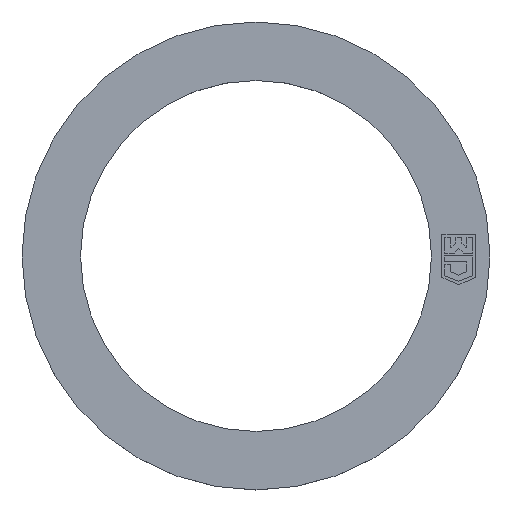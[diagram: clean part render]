
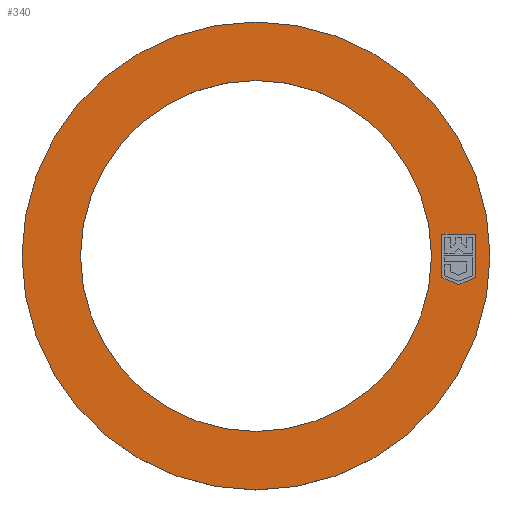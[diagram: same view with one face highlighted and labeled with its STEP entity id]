
A CAD part, top view. The second image highlights one B-rep face of the part: STEP entity #340.
In plain terms, the highlighted planar face has unit normal (0, 0, 1).
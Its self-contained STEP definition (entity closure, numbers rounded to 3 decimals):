
#219 = EDGE_CURVE ( 'NONE', #965, #289, #678, .T. ) ;
#260 = EDGE_LOOP ( 'NONE', ( #264, #267 ) ) ;
#264 = ORIENTED_EDGE ( 'NONE', *, *, #332, .F. ) ;
#265 = ORIENTED_EDGE ( 'NONE', *, *, #325, .T. ) ;
#266 = EDGE_LOOP ( 'NONE', ( #288, #301, #330, #324, #964 ) ) ;
#267 = ORIENTED_EDGE ( 'NONE', *, *, #268, .F. ) ;
#268 = EDGE_CURVE ( 'NONE', #269, #270, #698, .T. ) ;
#269 = VERTEX_POINT ( 'NONE', #693 ) ;
#270 = VERTEX_POINT ( 'NONE', #692 ) ;
#284 = EDGE_CURVE ( 'NONE', #302, #321, #660, .T. ) ;
#285 = VERTEX_POINT ( 'NONE', #651 ) ;
#287 = EDGE_LOOP ( 'NONE', ( #337, #265 ) ) ;
#288 = ORIENTED_EDGE ( 'NONE', *, *, #329, .T. ) ;
#289 = VERTEX_POINT ( 'NONE', #650 ) ;
#301 = ORIENTED_EDGE ( 'NONE', *, *, #322, .T. ) ;
#302 = VERTEX_POINT ( 'NONE', #600 ) ;
#321 = VERTEX_POINT ( 'NONE', #644 ) ;
#322 = EDGE_CURVE ( 'NONE', #285, #302, #642, .T. ) ;
#324 = ORIENTED_EDGE ( 'NONE', *, *, #970, .T. ) ;
#325 = EDGE_CURVE ( 'NONE', #339, #338, #761, .T. ) ;
#327 = EDGE_CURVE ( 'NONE', #338, #339, #767, .T. ) ;
#329 = EDGE_CURVE ( 'NONE', #289, #285, #748, .T. ) ;
#330 = ORIENTED_EDGE ( 'NONE', *, *, #284, .T. ) ;
#332 = EDGE_CURVE ( 'NONE', #270, #269, #779, .T. ) ;
#337 = ORIENTED_EDGE ( 'NONE', *, *, #327, .T. ) ;
#338 = VERTEX_POINT ( 'NONE', #774 ) ;
#339 = VERTEX_POINT ( 'NONE', #773 ) ;
#340 = ADVANCED_FACE ( 'NONE', ( #772, #771, #770 ), #1087, .T. ) ;
#600 = CARTESIAN_POINT ( 'NONE',  ( 7.15, -0.829, 0.8 ) ) ;
#639 = DIRECTION ( 'NONE',  ( -0.924, 0.383, 0. ) ) ;
#640 = VECTOR ( 'NONE', #639, 1000. ) ;
#641 = CARTESIAN_POINT ( 'NONE',  ( 7.8, -1.098, 0.8 ) ) ;
#642 = LINE ( 'NONE', #641, #640 ) ;
#644 = CARTESIAN_POINT ( 'NONE',  ( 7.15, 0.828, 0.8 ) ) ;
#650 = CARTESIAN_POINT ( 'NONE',  ( 8.45, -0.829, 0.8 ) ) ;
#651 = CARTESIAN_POINT ( 'NONE',  ( 7.8, -1.098, 0.8 ) ) ;
#652 = DIRECTION ( 'NONE',  ( 0., 1., 0. ) ) ;
#653 = VECTOR ( 'NONE', #652, 1000. ) ;
#654 = CARTESIAN_POINT ( 'NONE',  ( 7.15, -0.829, 0.8 ) ) ;
#660 = LINE ( 'NONE', #654, #653 ) ;
#675 = DIRECTION ( 'NONE',  ( 0., -1., 0. ) ) ;
#676 = VECTOR ( 'NONE', #675, 1000. ) ;
#677 = CARTESIAN_POINT ( 'NONE',  ( 8.45, 0.828, 0.8 ) ) ;
#678 = LINE ( 'NONE', #677, #676 ) ;
#692 = CARTESIAN_POINT ( 'NONE',  ( -6.75, 0., 0.8 ) ) ;
#693 = CARTESIAN_POINT ( 'NONE',  ( 6.75, 0., 0.8 ) ) ;
#694 = DIRECTION ( 'NONE',  ( 1., 0., 0. ) ) ;
#695 = DIRECTION ( 'NONE',  ( 0., 0., 1. ) ) ;
#696 = CARTESIAN_POINT ( 'NONE',  ( 0., 0., 0.8 ) ) ;
#697 = AXIS2_PLACEMENT_3D ( 'NONE', #696, #695, #694 ) ;
#698 = CIRCLE ( 'NONE', #697, 6.75 ) ;
#745 = DIRECTION ( 'NONE',  ( -0.924, -0.383, 0. ) ) ;
#746 = VECTOR ( 'NONE', #745, 1000. ) ;
#747 = CARTESIAN_POINT ( 'NONE',  ( 7.8, -1.098, 0.8 ) ) ;
#748 = LINE ( 'NONE', #747, #746 ) ;
#752 = CARTESIAN_POINT ( 'NONE',  ( 0., 0., 0.8 ) ) ;
#753 = DIRECTION ( 'NONE',  ( 1., 0., 0. ) ) ;
#754 = DIRECTION ( 'NONE',  ( 0., 0., 1. ) ) ;
#757 = DIRECTION ( 'NONE',  ( 1., 0., 0. ) ) ;
#759 = CARTESIAN_POINT ( 'NONE',  ( 0., 0., 0.8 ) ) ;
#760 = DIRECTION ( 'NONE',  ( 0., 0., 1. ) ) ;
#761 = CIRCLE ( 'NONE', #769, 9. ) ;
#764 = AXIS2_PLACEMENT_3D ( 'NONE', #759, #754, #753 ) ;
#767 = CIRCLE ( 'NONE', #764, 9. ) ;
#769 = AXIS2_PLACEMENT_3D ( 'NONE', #752, #760, #757 ) ;
#770 = FACE_BOUND ( 'NONE', #266, .T. ) ;
#771 = FACE_OUTER_BOUND ( 'NONE', #287, .T. ) ;
#772 = FACE_BOUND ( 'NONE', #260, .T. ) ;
#773 = CARTESIAN_POINT ( 'NONE',  ( 9., 0., 0.8 ) ) ;
#774 = CARTESIAN_POINT ( 'NONE',  ( -9., 0., 0.8 ) ) ;
#779 = CIRCLE ( 'NONE', #780, 6.75 ) ;
#780 = AXIS2_PLACEMENT_3D ( 'NONE', #783, #782, #781 ) ;
#781 = DIRECTION ( 'NONE',  ( 1., 0., 0. ) ) ;
#782 = DIRECTION ( 'NONE',  ( 0., 0., 1. ) ) ;
#783 = CARTESIAN_POINT ( 'NONE',  ( 0., 0., 0.8 ) ) ;
#964 = ORIENTED_EDGE ( 'NONE', *, *, #219, .T. ) ;
#965 = VERTEX_POINT ( 'NONE', #1225 ) ;
#970 = EDGE_CURVE ( 'NONE', #321, #965, #1280, .T. ) ;
#1014 = AXIS2_PLACEMENT_3D ( 'NONE', #1103, #1045, #1028 ) ;
#1028 = DIRECTION ( 'NONE',  ( 1., 0., 0. ) ) ;
#1045 = DIRECTION ( 'NONE',  ( 0., 0., 1. ) ) ;
#1087 = PLANE ( 'NONE',  #1014 ) ;
#1103 = CARTESIAN_POINT ( 'NONE',  ( 0., 0., 0.8 ) ) ;
#1225 = CARTESIAN_POINT ( 'NONE',  ( 8.45, 0.828, 0.8 ) ) ;
#1277 = DIRECTION ( 'NONE',  ( 1., 0., 0. ) ) ;
#1278 = VECTOR ( 'NONE', #1277, 1000. ) ;
#1279 = CARTESIAN_POINT ( 'NONE',  ( 7.15, 0.828, 0.8 ) ) ;
#1280 = LINE ( 'NONE', #1279, #1278 ) ;
